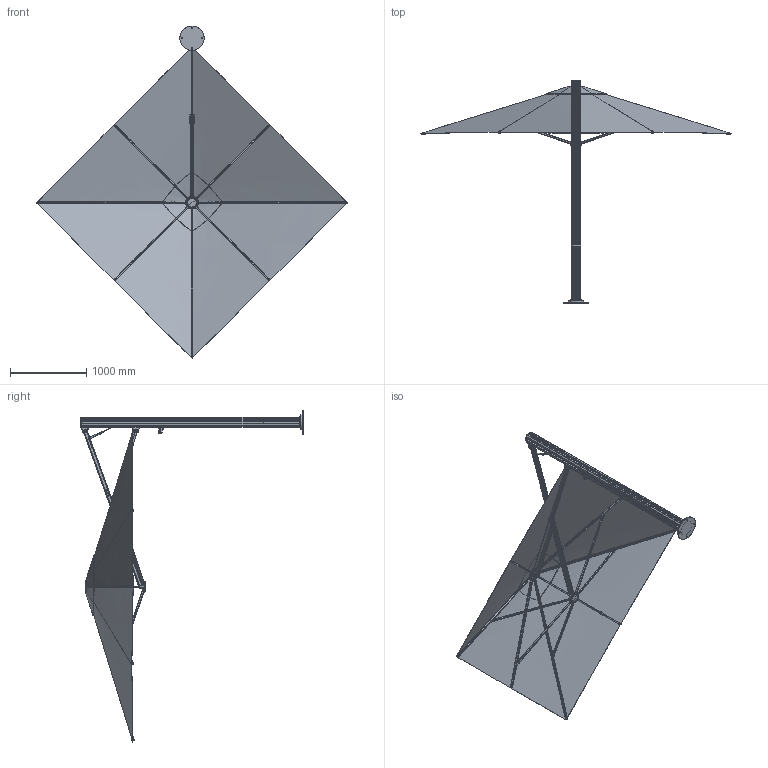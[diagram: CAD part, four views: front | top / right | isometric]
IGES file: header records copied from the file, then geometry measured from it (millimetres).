
Start section: SolidWorks IGES file using analytic representation for surfaces
Global section: file name: S:\RESEARCH and DEVELOPMENT\UnitySerenity Simple CAD Models\1. Export CAD\IGES Files\Unity 3M Square Uno.IGS; native system: SolidWorks 2017; preprocessor: SolidWorks 2017; author: Peter; date: 200619.112734; units: millimetre
Bounding box: 4084.59 x 2932.5 x 4366.05 mm (x, y, z)
Surface area: 24734165 mm2 (no closed solid volume)
Topology: 0 solids, 0 shells, 1977 faces, 26100 edges, 26079 vertices
Faces by surface type: bspline 1054, revolution 923
